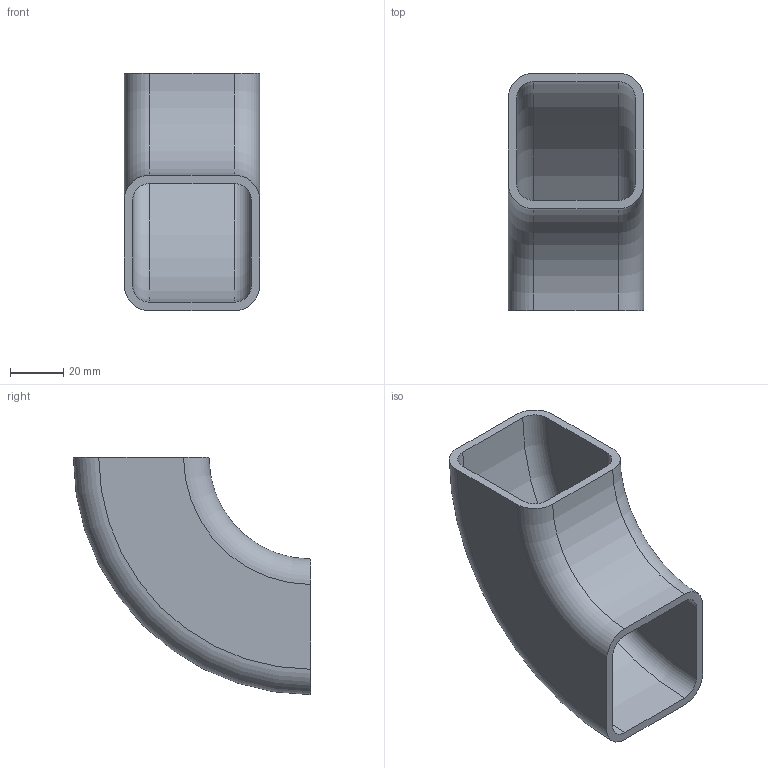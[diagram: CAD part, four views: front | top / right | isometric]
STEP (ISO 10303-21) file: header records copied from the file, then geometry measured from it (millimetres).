
FILE_DESCRIPTION((''),'2;1');
FILE_NAME('C:\Documents and Settings\bamfomg\Desktop\Owens corners\STP FILES\2x2x0.125 - Aluminum.stp','2011-03-21T13:10:12',('bamfomg'),(''),'Autodesk Inventor 2011','Autodesk Inventor 2011','');
FILE_SCHEMA(('AUTOMOTIVE_DESIGN { 1 0 10303 214 1 1 1 1 }'));
Length unit declared in the file: inch
Products named in the file (1): Square Tube Corners
Bounding box: 50.8 x 88.9 x 88.9 mm (x, y, z)
Volume: 56014.2 mm3; surface area: 36407.7 mm2
Topology: 1 solids, 1 shells, 18 faces, 48 edges, 32 vertices
Faces by surface type: torus 8, plane 6, cylinder 4
Entity records: 616 total; most frequent: DIRECTION 118, CARTESIAN_POINT 99, ORIENTED_EDGE 96, AXIS2_PLACEMENT_3D 51, EDGE_CURVE 48, VERTEX_POINT 32, CIRCLE 32, EDGE_LOOP 20
